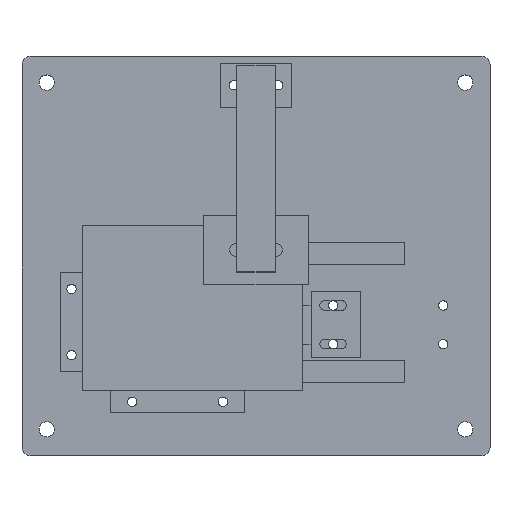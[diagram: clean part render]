
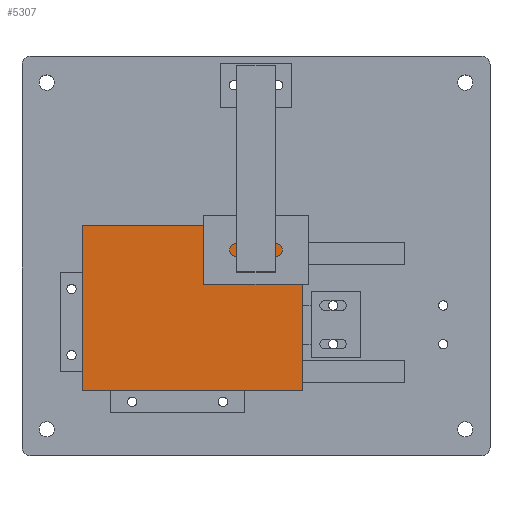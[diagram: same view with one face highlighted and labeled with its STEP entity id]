
A CAD part, top view. The second image highlights one B-rep face of the part: STEP entity #5307.
In plain terms, the highlighted planar face has unit normal (0, 0, 1).
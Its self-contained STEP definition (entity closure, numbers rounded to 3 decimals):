
#4993 = VERTEX_POINT('',#4994);
#4994 = CARTESIAN_POINT('',(-40.,-30.,1.6));
#5001 = PLANE('',#5002);
#5002 = AXIS2_PLACEMENT_3D('',#5003,#5004,#5005);
#5003 = CARTESIAN_POINT('',(-40.,-30.,0.));
#5004 = DIRECTION('',(1.,0.,-0.));
#5005 = DIRECTION('',(0.,0.,1.));
#5013 = PLANE('',#5014);
#5014 = AXIS2_PLACEMENT_3D('',#5015,#5016,#5017);
#5015 = CARTESIAN_POINT('',(-40.,-30.,0.));
#5016 = DIRECTION('',(-0.,1.,0.));
#5017 = DIRECTION('',(0.,0.,1.));
#5054 = VERTEX_POINT('',#5055);
#5055 = CARTESIAN_POINT('',(-40.,30.,1.6));
#5069 = PLANE('',#5070);
#5070 = AXIS2_PLACEMENT_3D('',#5071,#5072,#5073);
#5071 = CARTESIAN_POINT('',(-40.,30.,0.));
#5072 = DIRECTION('',(-0.,1.,0.));
#5073 = DIRECTION('',(0.,0.,1.));
#5081 = EDGE_CURVE('',#4993,#5054,#5082,.T.);
#5082 = SURFACE_CURVE('',#5083,(#5087,#5094),.PCURVE_S1.);
#5083 = LINE('',#5084,#5085);
#5084 = CARTESIAN_POINT('',(-40.,-30.,1.6));
#5085 = VECTOR('',#5086,1.);
#5086 = DIRECTION('',(-0.,1.,0.));
#5087 = PCURVE('',#5001,#5088);
#5088 = DEFINITIONAL_REPRESENTATION('',(#5089),#5093);
#5089 = LINE('',#5090,#5091);
#5090 = CARTESIAN_POINT('',(1.6,0.));
#5091 = VECTOR('',#5092,1.);
#5092 = DIRECTION('',(0.,-1.));
#5093 = ( GEOMETRIC_REPRESENTATION_CONTEXT(2) 
PARAMETRIC_REPRESENTATION_CONTEXT() REPRESENTATION_CONTEXT('2D SPACE',''
  ) );
#5094 = PCURVE('',#5095,#5100);
#5095 = PLANE('',#5096);
#5096 = AXIS2_PLACEMENT_3D('',#5097,#5098,#5099);
#5097 = CARTESIAN_POINT('',(-40.,-30.,1.6));
#5098 = DIRECTION('',(0.,0.,1.));
#5099 = DIRECTION('',(1.,0.,-0.));
#5100 = DEFINITIONAL_REPRESENTATION('',(#5101),#5105);
#5101 = LINE('',#5102,#5103);
#5102 = CARTESIAN_POINT('',(0.,0.));
#5103 = VECTOR('',#5104,1.);
#5104 = DIRECTION('',(0.,1.));
#5105 = ( GEOMETRIC_REPRESENTATION_CONTEXT(2) 
PARAMETRIC_REPRESENTATION_CONTEXT() REPRESENTATION_CONTEXT('2D SPACE',''
  ) );
#5113 = VERTEX_POINT('',#5114);
#5114 = CARTESIAN_POINT('',(40.,-30.,1.6));
#5121 = PLANE('',#5122);
#5122 = AXIS2_PLACEMENT_3D('',#5123,#5124,#5125);
#5123 = CARTESIAN_POINT('',(40.,-30.,0.));
#5124 = DIRECTION('',(1.,0.,-0.));
#5125 = DIRECTION('',(0.,0.,1.));
#5164 = VERTEX_POINT('',#5165);
#5165 = CARTESIAN_POINT('',(40.,30.,1.6));
#5186 = EDGE_CURVE('',#5113,#5164,#5187,.T.);
#5187 = SURFACE_CURVE('',#5188,(#5192,#5199),.PCURVE_S1.);
#5188 = LINE('',#5189,#5190);
#5189 = CARTESIAN_POINT('',(40.,-30.,1.6));
#5190 = VECTOR('',#5191,1.);
#5191 = DIRECTION('',(-0.,1.,0.));
#5192 = PCURVE('',#5121,#5193);
#5193 = DEFINITIONAL_REPRESENTATION('',(#5194),#5198);
#5194 = LINE('',#5195,#5196);
#5195 = CARTESIAN_POINT('',(1.6,0.));
#5196 = VECTOR('',#5197,1.);
#5197 = DIRECTION('',(0.,-1.));
#5198 = ( GEOMETRIC_REPRESENTATION_CONTEXT(2) 
PARAMETRIC_REPRESENTATION_CONTEXT() REPRESENTATION_CONTEXT('2D SPACE',''
  ) );
#5199 = PCURVE('',#5095,#5200);
#5200 = DEFINITIONAL_REPRESENTATION('',(#5201),#5205);
#5201 = LINE('',#5202,#5203);
#5202 = CARTESIAN_POINT('',(80.,0.));
#5203 = VECTOR('',#5204,1.);
#5204 = DIRECTION('',(0.,1.));
#5205 = ( GEOMETRIC_REPRESENTATION_CONTEXT(2) 
PARAMETRIC_REPRESENTATION_CONTEXT() REPRESENTATION_CONTEXT('2D SPACE',''
  ) );
#5232 = EDGE_CURVE('',#4993,#5113,#5233,.T.);
#5233 = SURFACE_CURVE('',#5234,(#5238,#5245),.PCURVE_S1.);
#5234 = LINE('',#5235,#5236);
#5235 = CARTESIAN_POINT('',(-40.,-30.,1.6));
#5236 = VECTOR('',#5237,1.);
#5237 = DIRECTION('',(1.,0.,-0.));
#5238 = PCURVE('',#5013,#5239);
#5239 = DEFINITIONAL_REPRESENTATION('',(#5240),#5244);
#5240 = LINE('',#5241,#5242);
#5241 = CARTESIAN_POINT('',(1.6,0.));
#5242 = VECTOR('',#5243,1.);
#5243 = DIRECTION('',(0.,1.));
#5244 = ( GEOMETRIC_REPRESENTATION_CONTEXT(2) 
PARAMETRIC_REPRESENTATION_CONTEXT() REPRESENTATION_CONTEXT('2D SPACE',''
  ) );
#5245 = PCURVE('',#5095,#5246);
#5246 = DEFINITIONAL_REPRESENTATION('',(#5247),#5251);
#5247 = LINE('',#5248,#5249);
#5248 = CARTESIAN_POINT('',(0.,0.));
#5249 = VECTOR('',#5250,1.);
#5250 = DIRECTION('',(1.,0.));
#5251 = ( GEOMETRIC_REPRESENTATION_CONTEXT(2) 
PARAMETRIC_REPRESENTATION_CONTEXT() REPRESENTATION_CONTEXT('2D SPACE',''
  ) );
#5279 = EDGE_CURVE('',#5054,#5164,#5280,.T.);
#5280 = SURFACE_CURVE('',#5281,(#5285,#5292),.PCURVE_S1.);
#5281 = LINE('',#5282,#5283);
#5282 = CARTESIAN_POINT('',(-40.,30.,1.6));
#5283 = VECTOR('',#5284,1.);
#5284 = DIRECTION('',(1.,0.,-0.));
#5285 = PCURVE('',#5069,#5286);
#5286 = DEFINITIONAL_REPRESENTATION('',(#5287),#5291);
#5287 = LINE('',#5288,#5289);
#5288 = CARTESIAN_POINT('',(1.6,0.));
#5289 = VECTOR('',#5290,1.);
#5290 = DIRECTION('',(0.,1.));
#5291 = ( GEOMETRIC_REPRESENTATION_CONTEXT(2) 
PARAMETRIC_REPRESENTATION_CONTEXT() REPRESENTATION_CONTEXT('2D SPACE',''
  ) );
#5292 = PCURVE('',#5095,#5293);
#5293 = DEFINITIONAL_REPRESENTATION('',(#5294),#5298);
#5294 = LINE('',#5295,#5296);
#5295 = CARTESIAN_POINT('',(0.,60.));
#5296 = VECTOR('',#5297,1.);
#5297 = DIRECTION('',(1.,0.));
#5298 = ( GEOMETRIC_REPRESENTATION_CONTEXT(2) 
PARAMETRIC_REPRESENTATION_CONTEXT() REPRESENTATION_CONTEXT('2D SPACE',''
  ) );
#5307 = ADVANCED_FACE('',(#5308),#5095,.T.);
#5308 = FACE_BOUND('',#5309,.T.);
#5309 = EDGE_LOOP('',(#5310,#5311,#5312,#5313));
#5310 = ORIENTED_EDGE('',*,*,#5081,.F.);
#5311 = ORIENTED_EDGE('',*,*,#5232,.T.);
#5312 = ORIENTED_EDGE('',*,*,#5186,.T.);
#5313 = ORIENTED_EDGE('',*,*,#5279,.F.);
